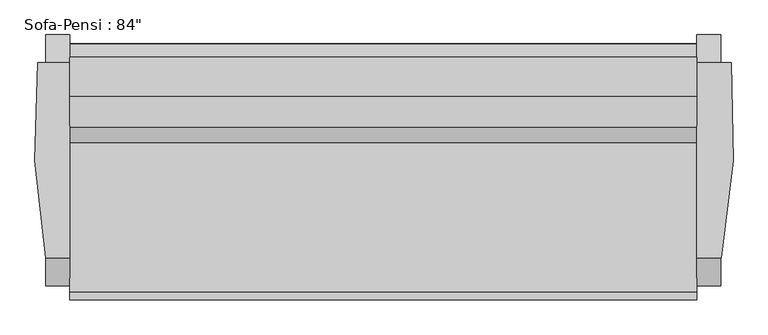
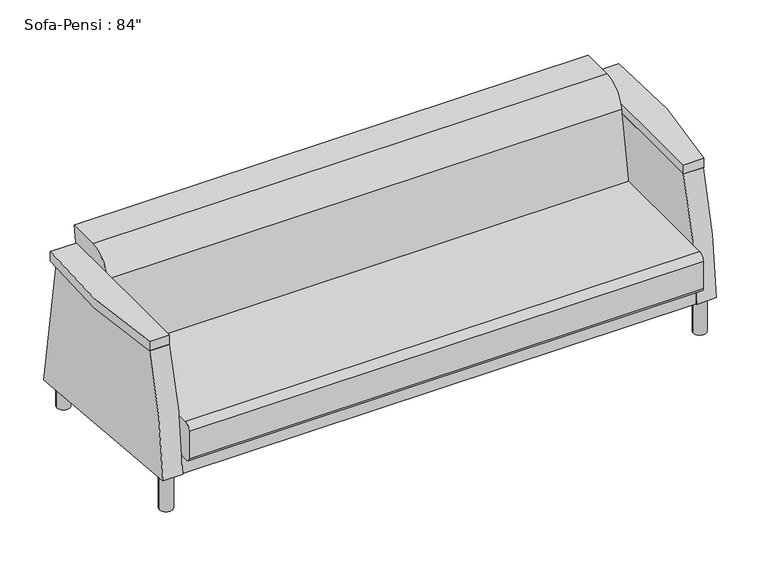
"""IFC4 building model written with IfcOpenShell, lengths in millimetres: furniture geometry."""

import ifcopenshell
import ifcopenshell.guid

model = None  # the IFC model being written
_history = None  # IfcOwnerHistory: only IFC2X3 demands one
_inside = {}  # id of a spatial element -> (the spatial element, [elements in it])
_under = {}  # id of a project, library or spatial element -> (it, [spatial elements below it])
_declared = {}  # id of a project -> (the project, [libraries it declares])
_typed = {}  # id of a type object -> (the type object, [elements of that type])
_made_of = {}  # id of a material, layer set ... -> (it, [elements and type objects made of it])


def new_model(schema):
    """Start an empty IFC model of exactly this schema.

    Asked for "IFC4X3", IfcOpenShell would pick the latest addendum, in which some entities
    have other attributes; the version numbers below select the first issue.
    IFC2X3 requires an IfcOwnerHistory on every rooted entity: one is made here for all.
    """
    global model, _history
    if schema == "IFC4X3":
        model = ifcopenshell.file(schema_version=(4, 3, 0, 0))
    else:
        model = ifcopenshell.file(schema=schema)
    _inside.clear()
    _under.clear()
    _declared.clear()
    _typed.clear()
    _made_of.clear()
    _history = None
    if model.schema == "IFC2X3":
        org = make("IfcOrganization", Name="unknown")
        user = make(
            "IfcPersonAndOrganization",
            ThePerson=make("IfcPerson", FamilyName="unknown"),
            TheOrganization=org,
        )
        app = make(
            "IfcApplication",
            ApplicationDeveloper=org,
            Version="unknown",
            ApplicationFullName="unknown",
            ApplicationIdentifier="unknown",
        )
        _history = make(
            "IfcOwnerHistory",
            OwningUser=user,
            OwningApplication=app,
            ChangeAction="ADDED",
            CreationDate=0,
        )
    return model


def make(cls, **values):
    """One entity of the class cls with the attributes given. An attribute that is None is left unset."""
    return model.create_entity(
        cls, **{name: value for name, value in values.items() if value is not None}
    )


def rooted(cls, **values):
    """An entity with a GlobalId (a new one), such as an element, a storey or a relation."""
    return make(cls, GlobalId=ifcopenshell.guid.new(), OwnerHistory=_history, **values)


def si_unit(unit_type, name, prefix=None):
    """IfcSIUnit, for example si_unit("LENGTHUNIT", "METRE", prefix="MILLI")."""
    return make("IfcSIUnit", UnitType=unit_type, Prefix=prefix, Name=name)


def assignment(units):
    """IfcUnitAssignment: the units of a project."""
    return None if units is None else make("IfcUnitAssignment", Units=units)


def point(xyz):
    """IfcCartesianPoint."""
    return None if xyz is None else make("IfcCartesianPoint", Coordinates=xyz)


def direction(xyz):
    """IfcDirection."""
    return None if xyz is None else make("IfcDirection", DirectionRatios=xyz)


def frame(location, z_axis=None, x_axis=None):
    """IfcAxis2Placement3D, a coordinate frame: its origin and axes. An axis left out is left unset."""
    return make(
        "IfcAxis2Placement3D",
        Location=point(location),
        Axis=direction(z_axis),
        RefDirection=direction(x_axis),
    )


def frame_2d(location, x_axis=None):
    """IfcAxis2Placement2D, a coordinate frame in the plane: its origin and x axis."""
    return make(
        "IfcAxis2Placement2D", Location=point(location), RefDirection=direction(x_axis)
    )


def origin():
    """The frame at (0, 0, 0) with its axes left unset."""
    return frame((0.0, 0.0, 0.0))


def origin_with_axes():
    """The frame at (0, 0, 0) with the z axis (0, 0, 1) and the x axis (1, 0, 0) written out."""
    return frame((0.0, 0.0, 0.0), z_axis=(0.0, 0.0, 1.0), x_axis=(1.0, 0.0, 0.0))


def place(relative_to, where):
    """IfcLocalPlacement: puts the frame where relative to a parent placement (None: the world)."""
    return make(
        "IfcLocalPlacement", PlacementRelTo=relative_to, RelativePlacement=where
    )


def context(
    kind, dimensions, precision=None, world=None, true_north=None, identifier=None
):
    """IfcGeometricRepresentationContext, for example the 3D "Model" context."""
    return make(
        "IfcGeometricRepresentationContext",
        ContextIdentifier=identifier,
        ContextType=kind,
        CoordinateSpaceDimension=dimensions,
        Precision=precision,
        WorldCoordinateSystem=world,
        TrueNorth=true_north,
    )


def project(units=None, contexts=None):
    """IfcProject with its units and contexts."""
    return rooted(
        "IfcProject",
        Name="project",
        RepresentationContexts=contexts,
        UnitsInContext=assignment(units),
    )


def spatial(cls, under=None, at=None, **own):
    """A site, building, storey or space (cls), placed at a placement, below another one or the project."""
    s = rooted(cls, ObjectPlacement=at, **own)
    if under is not None:
        _under.setdefault(under.id(), (under, []))[1].append(s)
    return s


def polyline(points):
    """IfcPolyline through the points."""
    return make("IfcPolyline", Points=[point(p) for p in points])


def circle_curve(where, radius):
    """IfcCircle in the frame where."""
    return make("IfcCircle", Position=where, Radius=radius)


def trimmed(basis, trim1, trim2, sense, master):
    """IfcTrimmedCurve: the piece of a basis curve between two trims."""
    return make(
        "IfcTrimmedCurve",
        BasisCurve=basis,
        Trim1=trim1,
        Trim2=trim2,
        SenseAgreement=sense,
        MasterRepresentation=master,
    )


def segment(curve, same_sense, transition):
    """IfcCompositeCurveSegment."""
    return make(
        "IfcCompositeCurveSegment",
        Transition=transition,
        SameSense=same_sense,
        ParentCurve=curve,
    )


def composite_curve(segments, self_intersect=None):
    """IfcCompositeCurve: segments joined end to end."""
    return make("IfcCompositeCurve", Segments=segments, SelfIntersect=self_intersect)


def outline(outer, holes=None, kind="AREA"):
    """IfcArbitraryClosedProfileDef: a profile drawn as a closed curve; with holes, ...WithVoids."""
    if holes is None:
        return make("IfcArbitraryClosedProfileDef", ProfileType=kind, OuterCurve=outer)
    return make(
        "IfcArbitraryProfileDefWithVoids",
        ProfileType=kind,
        OuterCurve=outer,
        InnerCurves=holes,
    )


def extrude(swept, where, along, depth):
    """IfcExtrudedAreaSolid: the profile swept, set in the frame where, extruded along a direction by depth."""
    return make(
        "IfcExtrudedAreaSolid",
        SweptArea=swept,
        Position=where,
        ExtrudedDirection=direction(along),
        Depth=depth,
    )


def shape(context_of_items, identifier, shape_type, items):
    """IfcShapeRepresentation: the items that make up one representation, for example the "Body"."""
    return make(
        "IfcShapeRepresentation",
        ContextOfItems=context_of_items,
        RepresentationIdentifier=identifier,
        RepresentationType=shape_type,
        Items=items,
    )


def source(mapping_origin, context_of_items, identifier, shape_type, items):
    """IfcRepresentationMap: a shape defined once, which mapped items show again and again."""
    return make(
        "IfcRepresentationMap",
        MappingOrigin=mapping_origin,
        MappedRepresentation=shape(context_of_items, identifier, shape_type, items),
    )


def transform(
    local_origin,
    x_axis=None,
    y_axis=None,
    z_axis=None,
    scale=None,
    scale2=None,
    scale3=None,
    uniform=True,
):
    """IfcCartesianTransformationOperator3D, or its non-uniform kind. x_axis, y_axis, z_axis: its Axis1, 2, 3."""
    if uniform:
        return make(
            "IfcCartesianTransformationOperator3D",
            Axis1=direction(x_axis),
            Axis2=direction(y_axis),
            LocalOrigin=point(local_origin),
            Scale=scale,
            Axis3=direction(z_axis),
        )
    return make(
        "IfcCartesianTransformationOperator3DnonUniform",
        Axis1=direction(x_axis),
        Axis2=direction(y_axis),
        LocalOrigin=point(local_origin),
        Scale=scale,
        Axis3=direction(z_axis),
        Scale2=scale2,
        Scale3=scale3,
    )


def mapped(mapping_source, mapping_target):
    """IfcMappedItem: shows the shape of a source again, moved by a transform."""
    return make(
        "IfcMappedItem", MappingSource=mapping_source, MappingTarget=mapping_target
    )


def made_of(thing, what):
    """Note that an element or type object is made of a material, layer set ...; save() writes the relation."""
    if what is not None:
        _made_of.setdefault(what.id(), (what, []))[1].append(thing)
    return thing


def element(
    cls,
    number,
    at=None,
    inside=None,
    cuts=None,
    type_object=None,
    material=None,
    context=None,
    identifier="Body",
    shape_type=None,
    held_by="IfcProductDefinitionShape",
    body=None,
    shapes=None,
    **own,
):
    """One element of the class cls, such as IfcWall. Its Tag is "e" and its number.

    at: its placement. inside: the storey or other place that contains it. cuts: it is an
    opening in that element (IfcRelVoidsElement). A single representation is given by context,
    identifier, shape_type and body (its items); several are given by shapes. held_by: the class
    of the entity that holds the representations. save() writes the other relations.
    """
    e = rooted(cls, Tag="e%d" % number, ObjectPlacement=at, **own)
    if body is not None:
        shapes = [shape(context, identifier, shape_type, body)]
    if shapes is not None:
        e.Representation = make(held_by, Representations=shapes)
    if inside is not None:
        _inside.setdefault(inside.id(), (inside, []))[1].append(e)
    if cuts is not None:
        rooted(
            "IfcRelVoidsElement", RelatingBuildingElement=cuts, RelatedOpeningElement=e
        )
    if type_object is not None:
        _typed.setdefault(type_object.id(), (type_object, []))[1].append(e)
    return made_of(e, material)


def aggregate(whole, parts):
    """IfcRelAggregates: a whole, such as a stair, and the parts it consists of."""
    return rooted("IfcRelAggregates", RelatingObject=whole, RelatedObjects=parts)


def save(model, path):
    """Write the relations noted so far, then the file.

    IfcRelAggregates (storeys below a building ...), IfcRelContainedInSpatialStructure (elements
    in a storey), IfcRelDefinesByType, IfcRelAssociatesMaterial and IfcRelDeclares: one each for
    every whole, place, type object, material and project.
    """
    for whole, parts in _under.values():
        aggregate(whole, parts)
    for where, things in _inside.values():
        rooted(
            "IfcRelContainedInSpatialStructure",
            RelatedElements=things,
            RelatingStructure=where,
        )
    for kind, things in _typed.values():
        rooted("IfcRelDefinesByType", RelatedObjects=things, RelatingType=kind)
    for what, things in _made_of.values():
        rooted("IfcRelAssociatesMaterial", RelatedObjects=things, RelatingMaterial=what)
    for by, libraries in _declared.values():
        rooted("IfcRelDeclares", RelatingContext=by, RelatedDefinitions=libraries)
    model.write(path)


def furniture_aff9b2fb(model_context):
    return source(origin(), model_context, "Body", "SweptSolid", [
        extrude(outline(composite_curve([segment(trimmed(circle_curve(frame_2d((-750.09375, -53.0901639)), 25.4), [point((-775.49375, -53.0901639))], [point((-724.69375, -53.0901639))], False, "CARTESIAN"), True, "CONTINUOUS"), segment(trimmed(circle_curve(frame_2d((-750.09375, -53.0901639)), 25.4), [point((-724.69375, -53.0901639))], [point((-775.49375, -53.0901639))], False, "CARTESIAN"), True, "CONTINUOUS")], self_intersect=False)), origin_with_axes(), (0.0, 0.0, 1.0), 148.43125),
        extrude(outline(composite_curve([segment(trimmed(circle_curve(frame_2d((-750.09375, 632.7098361)), 25.4), [point((-775.49375, 632.7098361))], [point((-724.69375, 632.7098361))], False, "CARTESIAN"), True, "CONTINUOUS"), segment(trimmed(circle_curve(frame_2d((-750.09375, 632.7098361)), 25.4), [point((-724.69375, 632.7098361))], [point((-775.49375, 632.7098361))], False, "CARTESIAN"), True, "CONTINUOUS")], self_intersect=False)), origin_with_axes(), (0.0, 0.0, 1.0), 148.43125),
        extrude(outline(composite_curve([segment(trimmed(circle_curve(frame_2d((1307.30625, 632.7098361)), 25.4), [point((1281.90625, 632.7098361))], [point((1332.70625, 632.7098361))], False, "CARTESIAN"), True, "CONTINUOUS"), segment(trimmed(circle_curve(frame_2d((1307.30625, 632.7098361)), 25.4), [point((1332.70625, 632.7098361))], [point((1281.90625, 632.7098361))], False, "CARTESIAN"), True, "CONTINUOUS")], self_intersect=False)), origin_with_axes(), (0.0, 0.0, 1.0), 148.43125),
        extrude(outline(composite_curve([segment(trimmed(circle_curve(frame_2d((1307.30625, -53.0901639)), 25.4), [point((1281.90625, -53.0901639))], [point((1332.70625, -53.0901639))], False, "CARTESIAN"), True, "CONTINUOUS"), segment(trimmed(circle_curve(frame_2d((1307.30625, -53.0901639)), 25.4), [point((1332.70625, -53.0901639))], [point((1281.90625, -53.0901639))], False, "CARTESIAN"), True, "CONTINUOUS")], self_intersect=False)), origin_with_axes(), (0.0, 0.0, 1.0), 148.43125),
        extrude(outline(polyline([(1269.20625, 668.3047863), (1269.20625, -93.6952137), (-711.99375, -93.6952137), (-711.99375, 668.3047863), (1269.20625, 668.3047863)])), frame((0.0, 0.0, 148.0509954), z_axis=(0.0, 0.0, 1.0), x_axis=(1.0, 0.0, 0.0)), (0.0, 0.0, 1.0), 76.2),
        extrude(outline(composite_curve([segment(polyline([(-9.3943348, 626.0203985), (608.6917937, 626.0203985), (696.2098361, 79.844579), (-97.7900405, 149.3105671)]), True, "CONTINUOUS"), segment(trimmed(circle_curve(frame_2d((1499.9783711, 99.5888442)), 1598.5418814), [point((-97.7900405, 149.3105671))], [point((-9.3943348, 626.0203985))], False, "CARTESIAN"), True, "CONTINUOUS")], self_intersect=False)), frame((-788.19375, 0.0, 0.0), z_axis=(1.0, 0.0, 0.0), x_axis=(0.0, 1.0, 0.0)), (0.0, 0.0, 1.0), 76.2),
        extrude(outline(composite_curve([segment(polyline([(696.2098361, 79.844579), (-97.7900405, 149.3105671)]), True, "CONTINUOUS"), segment(trimmed(circle_curve(frame_2d((1499.9783711, 99.5888442)), 1598.5418814), [point((-97.7900405, 149.3105671))], [point((-9.3943348, 626.0203985))], False, "CARTESIAN"), True, "CONTINUOUS"), segment(polyline([(-9.3943348, 626.0203985), (608.6917937, 626.0203985), (696.2098361, 79.844579)]), True, "CONTINUOUS")], self_intersect=False)), frame((1269.20625, 0.0, 0.0), z_axis=(1.0, 0.0, 0.0), x_axis=(0.0, 1.0, 0.0)), (0.0, 0.0, 1.0), 76.2),
        extrude(outline(composite_curve([segment(trimmed(circle_curve(frame_2d((-116.5901639, 351.2509954)), 25.4), [point((-141.9901639, 351.2509954))], [point((-116.5901639, 376.6509954))], False, "CARTESIAN"), True, "CONTINUOUS"), segment(polyline([(-116.5901639, 376.6509954), (355.3895541, 376.6509954), (402.1988177, 642.1195211)]), True, "CONTINUOUS"), segment(trimmed(circle_curve(frame_2d((502.2552854, 624.4768662)), 101.6), [point((402.1988177, 642.1195211))], [point((502.2552854, 726.0768662))], False, "CARTESIAN"), True, "CONTINUOUS"), segment(polyline([(502.2552854, 726.0768662), (626.3344485, 726.0768662), (609.5377828, 620.1719187), (667.6541767, 224.2509954), (-126.1151639, 224.2509954)]), True, "CONTINUOUS"), segment(trimmed(circle_curve(frame_2d((-126.1151639, 240.1259954)), 15.875), [point((-126.1151639, 224.2509954))], [point((-141.9901639, 240.1259954))], False, "CARTESIAN"), True, "CONTINUOUS"), segment(polyline([(-141.9901639, 240.1259954), (-141.9901639, 351.2509954)]), True, "CONTINUOUS")], self_intersect=False)), frame((-711.99375, 0.0, 0.0), z_axis=(1.0, 0.0, 0.0), x_axis=(0.0, 1.0, 0.0)), (0.0, 0.0, 1.0), 1981.2),
        extrude(outline(composite_curve([segment(polyline([(-711.99375, -9.3943348), (-788.19375, -9.3943348)]), True, "CONTINUOUS"), segment(trimmed(circle_curve(frame_2d((1379.5527561, 389.2532985)), 2204.0972869), [point((-788.19375, -9.3943348))], [point((-813.59375, 608.6917935))], False, "CARTESIAN"), True, "CONTINUOUS"), segment(polyline([(-813.59375, 608.6917935), (-711.99375, 608.6917935), (-711.99375, -9.3943348)]), True, "CONTINUOUS")], self_intersect=False)), frame((0.0, 0.0, 626.0203985), z_axis=(0.0, 0.0, 1.0), x_axis=(1.0, 0.0, 0.0)), (0.0, 0.0, 1.0), 38.1),
        extrude(outline(composite_curve([segment(polyline([(1269.20625, -9.3943348), (1269.20625, 608.9395268), (1377.8864453, 608.9395268)]), True, "CONTINUOUS"), segment(trimmed(circle_curve(frame_2d((-821.3771494, 407.0073811)), 2208.514648), [point((1377.8864453, 608.9395268))], [point((1347.5273117, -9.3943348))], False, "CARTESIAN"), True, "CONTINUOUS"), segment(polyline([(1347.5273117, -9.3943348), (1269.20625, -9.3943348)]), True, "CONTINUOUS")], self_intersect=False)), frame((0.0, 0.0, 626.0203985), z_axis=(0.0, 0.0, 1.0), x_axis=(1.0, 0.0, 0.0)), (0.0, 0.0, 1.0), 38.1),
    ])


if __name__ == "__main__":
    model = new_model("IFC4")
    model_context = context("Model", 3, world=origin())
    ifc_project = project(units=[si_unit("LENGTHUNIT", "METRE", prefix="MILLI")], contexts=[model_context])
    site = spatial("IfcSite", under=ifc_project)
    building = spatial("IfcBuilding", under=site)
    placement = place(None, origin())
    furniture_shape = furniture_aff9b2fb(model_context)
    element("IfcFurniture", 1, ObjectType="Sofa-Pensi : 84\"", at=placement, inside=building, context=model_context, shape_type="MappedRepresentation", body=[
        mapped(furniture_shape, transform((0.0, 0.0, 0.0), x_axis=(1.0, 0.0, 0.0), y_axis=(0.0, 1.0, 0.0), z_axis=(0.0, 0.0, 1.0))),
    ])
    save(model, "model.ifc")
